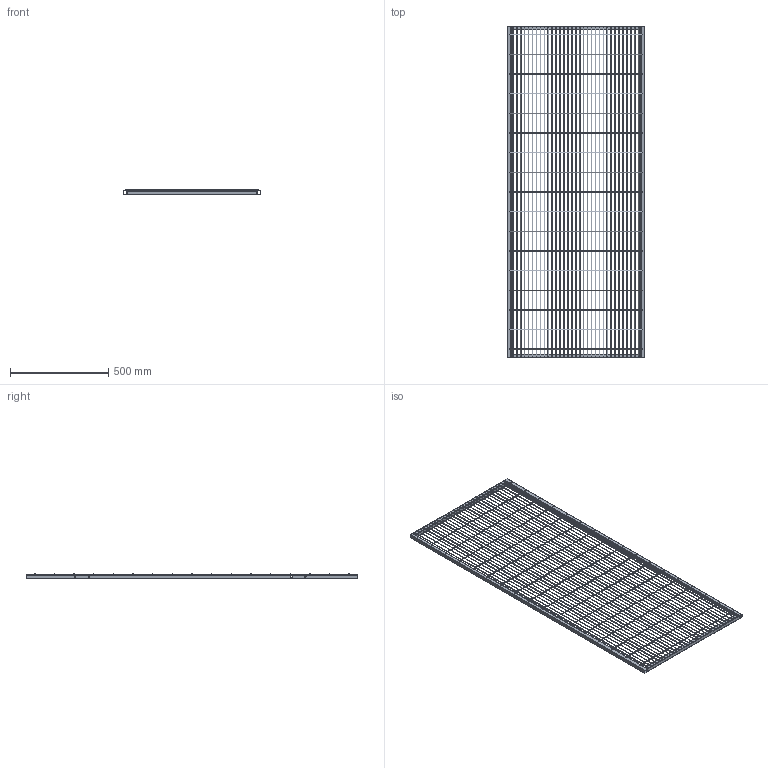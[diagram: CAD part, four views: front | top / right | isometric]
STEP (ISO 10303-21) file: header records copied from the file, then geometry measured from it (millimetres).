
FILE_DESCRIPTION (( 'STEP AP203' ), '1' );
FILE_NAME ('Framed Panel 700 x 1688.STEP', '2023-09-21T16:29:09', ( '' ), ( '' ), 'SwSTEP 2.0', 'SolidWorks 2023', '' );
FILE_SCHEMA (( 'CONFIG_CONTROL_DESIGN' ));
Length unit declared in the file: millimetre
Products named in the file (1): Framed Panel 700 x 1688
Bounding box: 700 x 1688 x 25.96 mm (x, y, z)
Volume: 978061.6 mm3; surface area: 1306254.5 mm2
Topology: 54 solids, 54 shells, 304 faces, 588 edges, 392 vertices
Faces by surface type: cylinder 164, plane 140
Entity records: 7931 total; most frequent: DIRECTION 1526, CARTESIAN_POINT 1285, ORIENTED_EDGE 1176, AXIS2_PLACEMENT_3D 633, EDGE_CURVE 588, VERTEX_POINT 392, EDGE_LOOP 344, CIRCLE 328
